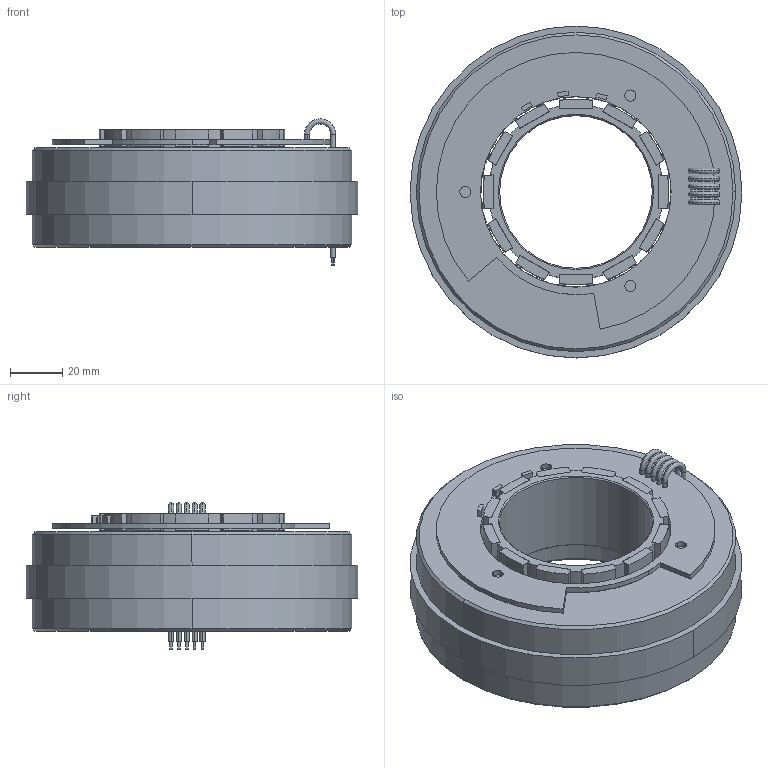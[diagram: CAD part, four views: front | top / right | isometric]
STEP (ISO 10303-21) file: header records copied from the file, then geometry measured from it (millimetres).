
FILE_DESCRIPTION((''),'2;1');
FILE_NAME('K127050-XX2_ASM','2011-04-06T',('jda4384'),(''),'PRO/ENGINEER BY PARAMETRIC TECHNOLOGY CORPORATION, 2007390','PRO/ENGINEER BY PARAMETRIC TECHNOLOGY CORPORATION, 2007390','');
FILE_SCHEMA(('CONFIG_CONTROL_DESIGN'));
Length unit declared in the file: millimetre
Products named in the file (12): 10164XXX050; 127; W127050-XX2_ASM; 10165000; 089-SIGNAL-LEADS; 10435000_ASM; 127050-XX2_ASM; 10169013; 10551001_127; 10551002_127; 12198001_ASM; K127050-XX2_ASM
Assembly tree (46 placements, depth 4):
  K127050-XX2_ASM
    127050-XX2_ASM
      W127050-XX2_ASM
        10164XXX050
        127  x2
      10435000_ASM
        10165000
        089-SIGNAL-LEADS
    12198001_ASM
      10169013
      10551001_127  x12
      10551002_127  x24
Bounding box: 127 x 127 x 56 mm (x, y, z)
Volume: 279155.9 mm3; surface area: 125646.6 mm2
Topology: 46 solids, 46 shells, 849 faces, 2235 edges, 1486 vertices
Faces by surface type: plane 492, cylinder 335, cone 12, torus 10
Entity records: 21585 total; most frequent: DIRECTION 3913, CARTESIAN_POINT 3746, ORIENTED_EDGE 3614, EDGE_CURVE 1807, AXIS2_PLACEMENT_3D 1369, VERTEX_POINT 1202, VECTOR 1175, LINE 1175
